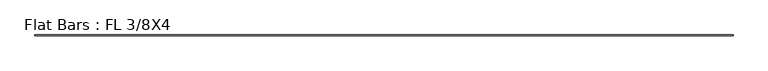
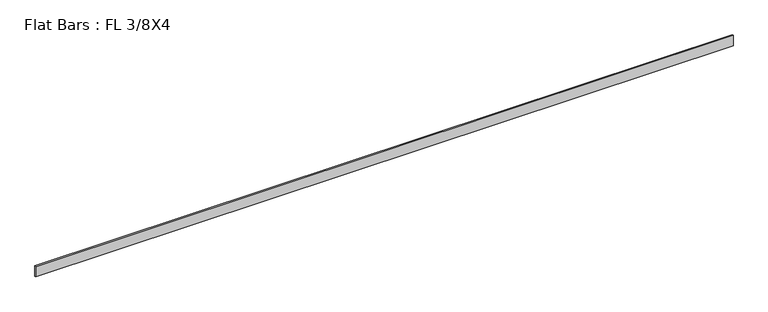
"""IFC4 building model written with IfcOpenShell, lengths in millimetres: member geometry, Flat Bars : FL 3/8X4."""

import ifcopenshell
import ifcopenshell.guid

model = None  # the IFC model being written
_history = None  # IfcOwnerHistory: only IFC2X3 demands one
_inside = {}  # id of a spatial element -> (the spatial element, [elements in it])
_under = {}  # id of a project, library or spatial element -> (it, [spatial elements below it])
_declared = {}  # id of a project -> (the project, [libraries it declares])
_typed = {}  # id of a type object -> (the type object, [elements of that type])
_made_of = {}  # id of a material, layer set ... -> (it, [elements and type objects made of it])


def new_model(schema):
    """Start an empty IFC model of exactly this schema.

    Asked for "IFC4X3", IfcOpenShell would pick the latest addendum, in which some entities
    have other attributes; the version numbers below select the first issue.
    IFC2X3 requires an IfcOwnerHistory on every rooted entity: one is made here for all.
    """
    global model, _history
    if schema == "IFC4X3":
        model = ifcopenshell.file(schema_version=(4, 3, 0, 0))
    else:
        model = ifcopenshell.file(schema=schema)
    _inside.clear()
    _under.clear()
    _declared.clear()
    _typed.clear()
    _made_of.clear()
    _history = None
    if model.schema == "IFC2X3":
        org = make("IfcOrganization", Name="unknown")
        user = make(
            "IfcPersonAndOrganization",
            ThePerson=make("IfcPerson", FamilyName="unknown"),
            TheOrganization=org,
        )
        app = make(
            "IfcApplication",
            ApplicationDeveloper=org,
            Version="unknown",
            ApplicationFullName="unknown",
            ApplicationIdentifier="unknown",
        )
        _history = make(
            "IfcOwnerHistory",
            OwningUser=user,
            OwningApplication=app,
            ChangeAction="ADDED",
            CreationDate=0,
        )
    return model


def make(cls, **values):
    """One entity of the class cls with the attributes given. An attribute that is None is left unset."""
    return model.create_entity(
        cls, **{name: value for name, value in values.items() if value is not None}
    )


def rooted(cls, **values):
    """An entity with a GlobalId (a new one), such as an element, a storey or a relation."""
    return make(cls, GlobalId=ifcopenshell.guid.new(), OwnerHistory=_history, **values)


def si_unit(unit_type, name, prefix=None):
    """IfcSIUnit, for example si_unit("LENGTHUNIT", "METRE", prefix="MILLI")."""
    return make("IfcSIUnit", UnitType=unit_type, Prefix=prefix, Name=name)


def assignment(units):
    """IfcUnitAssignment: the units of a project."""
    return None if units is None else make("IfcUnitAssignment", Units=units)


def point(xyz):
    """IfcCartesianPoint."""
    return None if xyz is None else make("IfcCartesianPoint", Coordinates=xyz)


def direction(xyz):
    """IfcDirection."""
    return None if xyz is None else make("IfcDirection", DirectionRatios=xyz)


def frame(location, z_axis=None, x_axis=None):
    """IfcAxis2Placement3D, a coordinate frame: its origin and axes. An axis left out is left unset."""
    return make(
        "IfcAxis2Placement3D",
        Location=point(location),
        Axis=direction(z_axis),
        RefDirection=direction(x_axis),
    )


def origin():
    """The frame at (0, 0, 0) with its axes left unset."""
    return frame((0.0, 0.0, 0.0))


def place(relative_to, where):
    """IfcLocalPlacement: puts the frame where relative to a parent placement (None: the world)."""
    return make(
        "IfcLocalPlacement", PlacementRelTo=relative_to, RelativePlacement=where
    )


def context(
    kind, dimensions, precision=None, world=None, true_north=None, identifier=None
):
    """IfcGeometricRepresentationContext, for example the 3D "Model" context."""
    return make(
        "IfcGeometricRepresentationContext",
        ContextIdentifier=identifier,
        ContextType=kind,
        CoordinateSpaceDimension=dimensions,
        Precision=precision,
        WorldCoordinateSystem=world,
        TrueNorth=true_north,
    )


def project(units=None, contexts=None):
    """IfcProject with its units and contexts."""
    return rooted(
        "IfcProject",
        Name="project",
        RepresentationContexts=contexts,
        UnitsInContext=assignment(units),
    )


def spatial(cls, under=None, at=None, **own):
    """A site, building, storey or space (cls), placed at a placement, below another one or the project."""
    s = rooted(cls, ObjectPlacement=at, **own)
    if under is not None:
        _under.setdefault(under.id(), (under, []))[1].append(s)
    return s


def polyline(points):
    """IfcPolyline through the points."""
    return make("IfcPolyline", Points=[point(p) for p in points])


def outline(outer, holes=None, kind="AREA"):
    """IfcArbitraryClosedProfileDef: a profile drawn as a closed curve; with holes, ...WithVoids."""
    if holes is None:
        return make("IfcArbitraryClosedProfileDef", ProfileType=kind, OuterCurve=outer)
    return make(
        "IfcArbitraryProfileDefWithVoids",
        ProfileType=kind,
        OuterCurve=outer,
        InnerCurves=holes,
    )


def extrude(swept, where, along, depth):
    """IfcExtrudedAreaSolid: the profile swept, set in the frame where, extruded along a direction by depth."""
    return make(
        "IfcExtrudedAreaSolid",
        SweptArea=swept,
        Position=where,
        ExtrudedDirection=direction(along),
        Depth=depth,
    )


def shape(context_of_items, identifier, shape_type, items):
    """IfcShapeRepresentation: the items that make up one representation, for example the "Body"."""
    return make(
        "IfcShapeRepresentation",
        ContextOfItems=context_of_items,
        RepresentationIdentifier=identifier,
        RepresentationType=shape_type,
        Items=items,
    )


def source(mapping_origin, context_of_items, identifier, shape_type, items):
    """IfcRepresentationMap: a shape defined once, which mapped items show again and again."""
    return make(
        "IfcRepresentationMap",
        MappingOrigin=mapping_origin,
        MappedRepresentation=shape(context_of_items, identifier, shape_type, items),
    )


def transform(
    local_origin,
    x_axis=None,
    y_axis=None,
    z_axis=None,
    scale=None,
    scale2=None,
    scale3=None,
    uniform=True,
):
    """IfcCartesianTransformationOperator3D, or its non-uniform kind. x_axis, y_axis, z_axis: its Axis1, 2, 3."""
    if uniform:
        return make(
            "IfcCartesianTransformationOperator3D",
            Axis1=direction(x_axis),
            Axis2=direction(y_axis),
            LocalOrigin=point(local_origin),
            Scale=scale,
            Axis3=direction(z_axis),
        )
    return make(
        "IfcCartesianTransformationOperator3DnonUniform",
        Axis1=direction(x_axis),
        Axis2=direction(y_axis),
        LocalOrigin=point(local_origin),
        Scale=scale,
        Axis3=direction(z_axis),
        Scale2=scale2,
        Scale3=scale3,
    )


def mapped(mapping_source, mapping_target):
    """IfcMappedItem: shows the shape of a source again, moved by a transform."""
    return make(
        "IfcMappedItem", MappingSource=mapping_source, MappingTarget=mapping_target
    )


def made_of(thing, what):
    """Note that an element or type object is made of a material, layer set ...; save() writes the relation."""
    if what is not None:
        _made_of.setdefault(what.id(), (what, []))[1].append(thing)
    return thing


def element(
    cls,
    number,
    at=None,
    inside=None,
    cuts=None,
    type_object=None,
    material=None,
    context=None,
    identifier="Body",
    shape_type=None,
    held_by="IfcProductDefinitionShape",
    body=None,
    shapes=None,
    **own,
):
    """One element of the class cls, such as IfcWall. Its Tag is "e" and its number.

    at: its placement. inside: the storey or other place that contains it. cuts: it is an
    opening in that element (IfcRelVoidsElement). A single representation is given by context,
    identifier, shape_type and body (its items); several are given by shapes. held_by: the class
    of the entity that holds the representations. save() writes the other relations.
    """
    e = rooted(cls, Tag="e%d" % number, ObjectPlacement=at, **own)
    if body is not None:
        shapes = [shape(context, identifier, shape_type, body)]
    if shapes is not None:
        e.Representation = make(held_by, Representations=shapes)
    if inside is not None:
        _inside.setdefault(inside.id(), (inside, []))[1].append(e)
    if cuts is not None:
        rooted(
            "IfcRelVoidsElement", RelatingBuildingElement=cuts, RelatedOpeningElement=e
        )
    if type_object is not None:
        _typed.setdefault(type_object.id(), (type_object, []))[1].append(e)
    return made_of(e, material)


def aggregate(whole, parts):
    """IfcRelAggregates: a whole, such as a stair, and the parts it consists of."""
    return rooted("IfcRelAggregates", RelatingObject=whole, RelatedObjects=parts)


def save(model, path):
    """Write the relations noted so far, then the file.

    IfcRelAggregates (storeys below a building ...), IfcRelContainedInSpatialStructure (elements
    in a storey), IfcRelDefinesByType, IfcRelAssociatesMaterial and IfcRelDeclares: one each for
    every whole, place, type object, material and project.
    """
    for whole, parts in _under.values():
        aggregate(whole, parts)
    for where, things in _inside.values():
        rooted(
            "IfcRelContainedInSpatialStructure",
            RelatedElements=things,
            RelatingStructure=where,
        )
    for kind, things in _typed.values():
        rooted("IfcRelDefinesByType", RelatedObjects=things, RelatingType=kind)
    for what, things in _made_of.values():
        rooted("IfcRelAssociatesMaterial", RelatedObjects=things, RelatingMaterial=what)
    for by, libraries in _declared.values():
        rooted("IfcRelDeclares", RelatingContext=by, RelatedDefinitions=libraries)
    model.write(path)


def flat_bars_fl_3_8x4_188fb4ee(model_context):
    return source(origin(), model_context, "Body", "SweptSolid", [
        extrude(outline(polyline([(-3245.2082713, 4.7625), (3212.3168384, 4.7625), (3212.3168384, -4.7625), (-3245.2082713, -4.7625), (-3245.2082713, 4.7625)])), frame((0.0, 0.0, -50.8), z_axis=(0.0, 0.0, 1.0), x_axis=(1.0, 0.0, 0.0)), (0.0, 0.0, 1.0), 101.6),
    ])


if __name__ == "__main__":
    model = new_model("IFC4")
    model_context = context("Model", 3, world=origin())
    ifc_project = project(units=[si_unit("LENGTHUNIT", "METRE", prefix="MILLI")], contexts=[model_context])
    site = spatial("IfcSite", under=ifc_project)
    building = spatial("IfcBuilding", under=site)
    placement = place(None, origin())
    flat_bars_fl_3_8x4_shape = flat_bars_fl_3_8x4_188fb4ee(model_context)
    element("IfcMember", 1, ObjectType="Flat Bars : FL 3/8X4", at=placement, inside=building, context=model_context, shape_type="MappedRepresentation", body=[
        mapped(flat_bars_fl_3_8x4_shape, transform((0.0, 0.0, 0.0), x_axis=(1.0, 0.0, 0.0), y_axis=(0.0, 1.0, 0.0), z_axis=(0.0, 0.0, 1.0))),
    ])
    save(model, "model.ifc")
